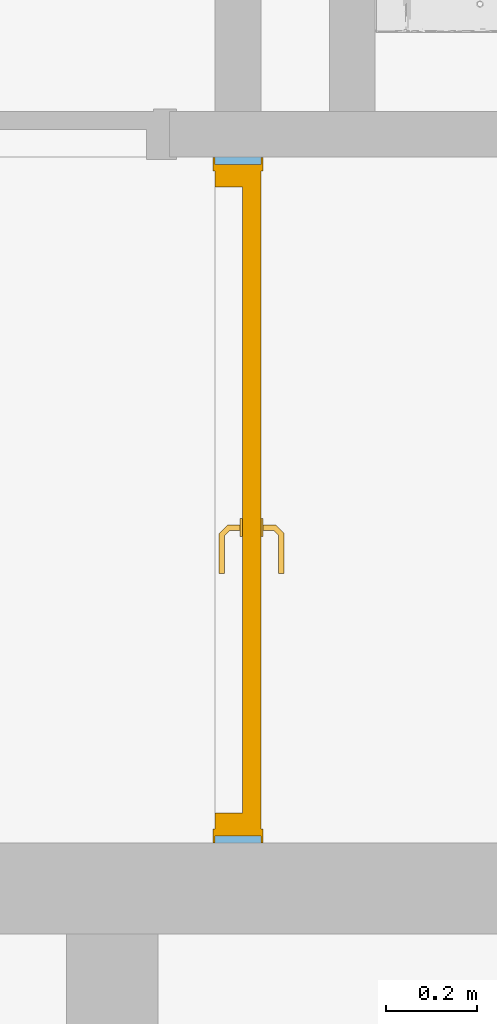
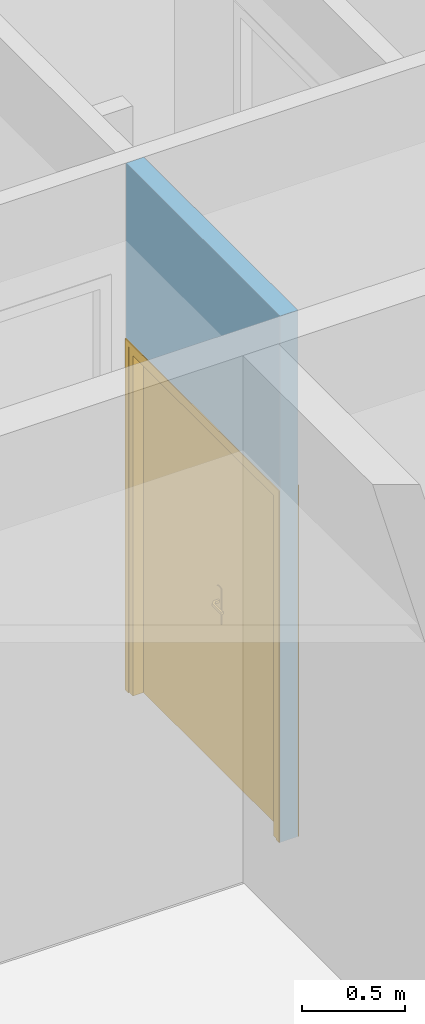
# One storey, part 202 of 240: 1 door, 1 opening, plus 1 element that does not belong to this part.
"""IFC2X3 building model written with IfcOpenShell, lengths in centimetres."""

from ifc_helpers import new_model, entity, si_unit, converted_unit, derived_unit, direction, frame, frame_2d, origin, place, context, subcontext, project, spatial, rectangle, extrude, faceted_brep, source, transform, mapped, material, material_list, layer, layer_set, layer_usage, type_object, type_shapes, element, fill, save


model = new_model("IFC2X3")

# Units and contexts
model_context = context("Model", 3, precision=0.001, world=origin(), true_north=direction((6.12303176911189e-17, 1.0)))
body_context = subcontext(model_context, "Body", "Model", "MODEL_VIEW")
ifc_project = project(units=[si_unit("LENGTHUNIT", "METRE", prefix="CENTI"), si_unit("AREAUNIT", "SQUARE_METRE"), si_unit("VOLUMEUNIT", "CUBIC_METRE"), converted_unit("PLANEANGLEUNIT", "DEGREE", entity("IfcRatioMeasure", 0.0174532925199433), si_unit("PLANEANGLEUNIT", "RADIAN"), dimensions=[0, 0, 0, 0, 0, 0, 0]), si_unit("MASSUNIT", "GRAM", prefix="KILO"), derived_unit("MASSDENSITYUNIT", [(si_unit("MASSUNIT", "GRAM", prefix="KILO"), 1), (si_unit("LENGTHUNIT", "METRE"), -3)]), si_unit("TIMEUNIT", "SECOND"), si_unit("FREQUENCYUNIT", "HERTZ"), si_unit("THERMODYNAMICTEMPERATUREUNIT", "DEGREE_CELSIUS"), derived_unit("THERMALTRANSMITTANCEUNIT", [(si_unit("MASSUNIT", "GRAM", prefix="KILO"), 1), (si_unit("THERMODYNAMICTEMPERATUREUNIT", "KELVIN"), -1), (si_unit("TIMEUNIT", "SECOND"), -3)]), derived_unit("VOLUMETRICFLOWRATEUNIT", [(si_unit("LENGTHUNIT", "METRE"), 3), (si_unit("TIMEUNIT", "SECOND"), -1)]), si_unit("ELECTRICCURRENTUNIT", "AMPERE"), si_unit("ELECTRICVOLTAGEUNIT", "VOLT"), si_unit("POWERUNIT", "WATT"), si_unit("FORCEUNIT", "NEWTON", prefix="KILO"), si_unit("ILLUMINANCEUNIT", "LUX"), si_unit("LUMINOUSFLUXUNIT", "LUMEN"), si_unit("LUMINOUSINTENSITYUNIT", "CANDELA"), derived_unit("USERDEFINED", [(si_unit("MASSUNIT", "GRAM", prefix="KILO"), -1), (si_unit("LENGTHUNIT", "METRE"), -2), (si_unit("TIMEUNIT", "SECOND"), 3), (si_unit("LUMINOUSFLUXUNIT", "LUMEN"), 1)]), derived_unit("LINEARVELOCITYUNIT", [(si_unit("LENGTHUNIT", "METRE"), 1), (si_unit("TIMEUNIT", "SECOND"), -1)]), si_unit("PRESSUREUNIT", "PASCAL"), derived_unit("USERDEFINED", [(si_unit("LENGTHUNIT", "METRE"), -2), (si_unit("MASSUNIT", "GRAM", prefix="KILO"), 1), (si_unit("TIMEUNIT", "SECOND"), -2)])], contexts=[model_context])

# Site, building, storey
site_placement = place(None, frame((-2781.94577612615, 7442.24238424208, 0.0)))
site = spatial("IfcSite", under=ifc_project, at=site_placement, Name="Default", CompositionType="ELEMENT")
building_placement = place(site_placement, origin())
building = spatial("IfcBuilding", under=site, at=building_placement, CompositionType="ELEMENT")
storey_placement = place(building_placement, origin())
storey = spatial("IfcBuildingStorey", under=building, at=storey_placement, Name="N00 - COO", CompositionType="ELEMENT", Elevation=0.0)

# Wall, opening, door
ifc_material_1 = material(Name="01 - Enduit/Plâtre")
ifc_layer_1 = layer(ifc_material_1, 1.3)
ifc_material_2 = material(Name="00 - Isolant")
ifc_layer_2 = layer(ifc_material_2, 7.4)
ifc_layer_3 = layer(ifc_material_1, 1.3)
ifc_layer_set = layer_set([ifc_layer_1, ifc_layer_2, ifc_layer_3], Name="Mur de base:06 - cloisons - Ba13 10cm")
ifc_layer_usage = layer_usage(ifc_layer_set, "AXIS2", "NEGATIVE", 5.0)
wall_type = type_object("IfcWallType", Name="Mur de base:06 - cloisons - Ba13 10cm", PredefinedType="STANDARD", material=ifc_layer_set)
wall_placement = place(building_placement, frame((-9659.49987766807, -1760.0, 0.0), z_axis=(0.0, 0.0, 1.0), x_axis=(0.0, -1.0, 0.0)))
wall = element("IfcWallStandardCase", 1, at=wall_placement, inside=storey, type_object=wall_type, material=ifc_layer_usage, Name="Mur de base:06 - cloisons - Ba13 10cm", ObjectType="Mur de base:06 - cloisons - Ba13 10cm", context=body_context, shape_type="SweptSolid", body=[
    extrude(rectangle(XDim=150.079033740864, YDim=10.0000000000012, at=frame_2d((75.0395168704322, 0.0), x_axis=(-1.0, 0.0))), origin(), (0.0, 0.0, 1.0), 313.0),
])
opening_placement = place(wall_placement, frame((1.57903364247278, -5.0, 0.0)))
opening = element("IfcOpeningElement", 2, at=opening_placement, cuts=wall, Name="Int. Double:PP (1.40m x 2.04m):1", ObjectType="Opening", context=body_context, shape_type="SweptSolid", body=[
    extrude(rectangle(XDim=207.500000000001, YDim=147.0, at=frame_2d((103.750000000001, 73.5000000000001), x_axis=(1.0, 0.0))), frame((0.0, 0.0, 0.0), z_axis=(0.0, 1.0, 0.0), x_axis=(0.0, 0.0, 1.0)), (0.0, 0.0, 1.0), 10.0),
])
ifc_material_3 = material(Name="Bois - Panneau de porte")
ifc_material_4 = material(Name="Finition Peinture - Blanc satiné")
ifc_material_5 = material(Name="Bois - Cadre de porte")
ifc_material_list_1 = material_list([ifc_material_3, ifc_material_4, ifc_material_5])
ifc_material_list_2 = material_list([ifc_material_3, ifc_material_4, ifc_material_5])
door_style = type_object("IfcDoorStyle", Name="PP (1.40m x 2.04m)", ConstructionType="NOTDEFINED", OperationType="DOUBLE_DOOR_SINGLE_SWING", ParameterTakesPrecedence=False, Sizeable=False, material=ifc_material_list_2)
shared_shape = source(origin(), body_context, "Body", "Brep", [
    faceted_brep([(80.5000000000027, 4.0, 204.0), (150.500000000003, 4.0, 204.0), (150.500000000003, 4.0, 0.0), (80.5000000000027, 4.0, 0.0), (80.5000000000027, 0.0, 204.0), (80.5000000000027, 0.0, 0.0), (150.500000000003, 0.0, 0.0), (150.500000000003, 0.0, 204.0)], [[[0, 1, 2, 3]], [[4, 5, 6, 7]], [[1, 0, 4, 7]], [[2, 1, 7, 6]], [[3, 2, 6, 5]], [[0, 3, 5, 4]]]),
    faceted_brep([(76.5000000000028, -0.50000000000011, 87.0), (76.5000000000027, -0.50000000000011, 108.0), (75.5352761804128, -0.500000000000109, 108.399601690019), (74.5000000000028, -0.500000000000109, 108.535898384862), (73.4647238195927, -0.500000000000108, 108.399601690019), (72.5000000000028, -0.500000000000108, 108.0), (72.5000000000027, -0.500000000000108, 87.0), (73.4647238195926, -0.500000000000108, 86.6003983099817), (74.5000000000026, -0.500000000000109, 86.464101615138), (75.5352761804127, -0.500000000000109, 86.6003983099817), (76.5000000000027, 0.0, 108.0), (76.5000000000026, 0.0, 87.0), (75.5352761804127, 0.0, 86.6003983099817), (74.5000000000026, 0.0, 86.464101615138), (73.4647238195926, 0.0, 86.6003983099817), (72.5000000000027, 0.0, 87.0), (72.5000000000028, 0.0, 108.0), (73.4647238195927, 0.0, 108.399601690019), (74.5000000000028, 0.0, 108.535898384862), (75.5352761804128, 0.0, 108.399601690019)], [[[0, 1, 2, 3, 4, 5, 6, 7, 8, 9]], [[10, 11, 12, 13, 14, 15, 16, 17, 18, 19]], [[9, 12, 11, 0]], [[8, 13, 12, 9]], [[7, 14, 13, 8]], [[7, 6, 15, 14]], [[15, 6, 5, 16]], [[4, 17, 16, 5]], [[3, 18, 17, 4]], [[2, 19, 18, 3]], [[2, 1, 10, 19]], [[11, 10, 1, 0]]]),
    faceted_brep([(76.5000000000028, 4.0, 87.0), (76.5000000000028, 4.0, 108.0), (75.5352761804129, 4.0, 108.399601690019), (74.5000000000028, 4.0, 108.535898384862), (73.4647238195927, 4.0, 108.399601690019), (72.5000000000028, 4.0, 108.0), (72.5000000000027, 4.0, 87.0), (73.4647238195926, 4.0, 86.6003983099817), (74.5000000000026, 4.0, 86.464101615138), (75.5352761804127, 4.0, 86.6003983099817), (74.5000000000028, 4.49999999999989, 108.535898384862), (75.5352761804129, 4.49999999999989, 108.399601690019), (76.5000000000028, 4.49999999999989, 108.0), (76.5000000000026, 4.49999999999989, 87.0), (75.5352761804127, 4.49999999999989, 86.6003983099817), (74.5000000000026, 4.49999999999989, 86.464101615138), (73.4647238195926, 4.49999999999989, 86.6003983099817), (72.5000000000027, 4.49999999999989, 87.0), (72.5000000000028, 4.49999999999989, 108.0), (73.4647238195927, 4.49999999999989, 108.399601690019)], [[[0, 1, 2, 3, 4, 5, 6, 7, 8, 9]], [[10, 11, 12, 13, 14, 15, 16, 17, 18, 19]], [[4, 19, 18, 5]], [[3, 10, 19, 4]], [[2, 11, 10, 3]], [[2, 1, 12, 11]], [[13, 12, 1, 0]], [[9, 14, 13, 0]], [[8, 15, 14, 9]], [[7, 16, 15, 8]], [[7, 6, 17, 16]], [[17, 6, 5, 18]]]),
    faceted_brep([(74.297470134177, -0.500000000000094, 100.778044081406), (74.7025298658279, -0.500000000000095, 100.778044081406), (75.1000000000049, -0.500000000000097, 100.699999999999), (75.1000000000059, -0.500000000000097, 99.2999999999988), (74.7025298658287, -0.500000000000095, 99.221955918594), (74.2974701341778, -0.500000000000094, 99.2219559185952), (73.9, -0.500000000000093, 99.3000000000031), (73.9000000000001, -0.500000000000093, 100.7), (74.7025298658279, -3.10045754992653, 100.778044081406), (75.1000000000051, -3.26509507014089, 100.7), (74.297470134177, -2.93267631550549, 100.778044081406), (72.9298602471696, -4.30028620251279, 100.778044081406), (73.0976414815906, -4.70534593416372, 100.778044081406), (73.9000000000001, -2.76803879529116, 100.7), (73.9, -2.76803879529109, 99.3000000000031), (74.2974701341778, -2.93267631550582, 99.2219559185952), (74.7025298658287, -3.10045754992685, 99.221955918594), (73.0976414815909, -4.7053459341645, 99.221955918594), (72.9298602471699, -4.30028620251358, 99.2219559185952), (75.1000000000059, -3.26509507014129, 99.2999999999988), (73.2622790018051, -5.10281606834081, 100.7), (72.7652227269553, -3.90281606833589, 100.7), (72.7652227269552, -3.90281606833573, 99.3000000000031), (73.2622790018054, -5.10281606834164, 99.2999999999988), (64.4981359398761, -5.10281606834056, 100.7), (64.4981359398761, -4.70534593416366, 100.778044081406), (64.4981359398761, -4.30028620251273, 100.778044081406), (64.4981359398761, -3.9028160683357, 100.699999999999), (64.4981359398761, -3.90281606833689, 99.3000000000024), (64.4981359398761, -4.30028620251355, 99.2219559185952), (64.4981359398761, -4.70534593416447, 99.221955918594), (64.4981359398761, -5.10281606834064, 99.2999999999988), (68.7139980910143, -4.50281606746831, 100.78786867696), (69.2692302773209, -5.10281606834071, 100.7), (68.6316793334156, -3.9028160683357, 100.7), (68.6316793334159, -3.9028160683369, 99.3000000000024), (68.7139981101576, -4.50281607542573, 99.2121313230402), (69.269231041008, -5.10281606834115, 99.2999999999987)], [[[0, 1, 2, 3, 4, 5, 6, 7]], [[2, 1, 8, 9]], [[1, 0, 10, 11, 12, 8]], [[0, 7, 13, 10]], [[14, 13, 7, 6]], [[5, 15, 14, 6]], [[5, 4, 16, 17, 18, 15]], [[3, 19, 16, 4]], [[9, 19, 3, 2]], [[9, 8, 12, 20]], [[10, 13, 21, 11]], [[22, 21, 13, 14]], [[14, 15, 18, 22]], [[16, 19, 23, 17]], [[20, 23, 19, 9]], [[24, 25, 26, 27, 28, 29, 30, 31]], [[32, 25, 33]], [[33, 25, 24]], [[33, 20, 12]], [[11, 34, 32]], [[34, 11, 21]], [[27, 26, 34]], [[32, 26, 25]], [[32, 34, 26]], [[32, 33, 12]], [[11, 32, 12]], [[21, 22, 35, 28, 27, 34]], [[36, 29, 35]], [[30, 36, 37]], [[18, 35, 22]], [[29, 28, 35]], [[30, 37, 31]], [[37, 17, 23]], [[36, 17, 37]], [[36, 18, 17]], [[36, 35, 18]], [[29, 36, 30]], [[23, 20, 33, 24, 31, 37]]]),
    faceted_brep([(74.2974701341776, 4.4999999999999, 99.2219559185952), (74.7025298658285, 4.4999999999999, 99.221955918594), (75.1000000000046, 4.4999999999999, 99.2999999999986), (75.1000000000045, 4.4999999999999, 100.7), (74.7025298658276, 4.4999999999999, 100.778044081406), (74.2974701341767, 4.4999999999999, 100.778044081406), (73.8999999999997, 4.49999999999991, 100.7), (73.9000000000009, 4.49999999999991, 99.3000000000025), (73.8999999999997, 6.7485204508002, 100.7), (73.8999999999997, 6.7485204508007, 99.3000000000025), (74.2974701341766, 6.91315797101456, 100.778044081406), (74.7025298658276, 7.08093920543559, 100.778044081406), (73.0838906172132, 8.69957845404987, 100.778044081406), (72.9161093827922, 8.29451872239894, 100.778044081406), (75.1000000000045, 7.24557672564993, 100.7), (75.1000000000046, 7.24557672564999, 99.2999999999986), (74.7025298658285, 7.08093920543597, 99.221955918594), (74.2974701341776, 6.91315797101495, 99.2219559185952), (72.9161093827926, 8.29451872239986, 99.2219559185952), (73.0838906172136, 8.69957845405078, 99.221955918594), (72.7514718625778, 7.89704858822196, 100.7), (72.7514718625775, 7.89704858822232, 99.3000000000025), (73.2485281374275, 9.09704858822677, 100.7), (73.2485281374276, 9.0970485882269, 99.2999999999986), (64.4954216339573, 8.294518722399, 100.778044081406), (64.4954216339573, 8.69957845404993, 100.778044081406), (64.4954216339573, 9.09704858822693, 100.7), (64.4954216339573, 9.09704858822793, 99.2999999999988), (64.4954216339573, 8.6995784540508, 99.221955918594), (64.4954216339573, 8.29451872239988, 99.2219559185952), (64.4954216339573, 7.89704858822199, 99.3000000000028), (64.4954216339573, 7.8970485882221, 100.7), (68.6234467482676, 7.89704858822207, 100.7), (68.6234479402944, 7.89704858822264, 99.3000000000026), (68.7057655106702, 8.49704858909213, 100.78786867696), (69.2554794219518, 9.09704858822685, 100.7), (69.2554795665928, 9.09704858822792, 99.2999999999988), (68.7057654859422, 8.49704858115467, 99.2121313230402)], [[[0, 1, 2, 3, 4, 5, 6, 7]], [[8, 9, 7, 6]], [[5, 10, 8, 6]], [[5, 4, 11, 12, 13, 10]], [[3, 14, 11, 4]], [[14, 3, 2, 15]], [[2, 1, 16, 15]], [[1, 0, 17, 18, 19, 16]], [[0, 7, 9, 17]], [[20, 21, 9, 8]], [[8, 10, 13, 20]], [[14, 22, 12, 11]], [[23, 22, 14, 15]], [[15, 16, 19, 23]], [[17, 9, 21, 18]], [[24, 25, 26, 27, 28, 29, 30, 31]], [[21, 20, 32, 31, 30, 33]], [[34, 24, 32]], [[25, 34, 35]], [[13, 32, 20]], [[24, 31, 32]], [[25, 35, 26]], [[35, 12, 22]], [[34, 12, 35]], [[34, 13, 12]], [[34, 32, 13]], [[24, 34, 25]], [[22, 23, 36, 27, 26, 35]], [[37, 28, 36]], [[36, 28, 27]], [[36, 23, 19]], [[18, 33, 37]], [[33, 18, 21]], [[30, 29, 33]], [[37, 29, 28]], [[37, 33, 29]], [[37, 36, 19]], [[18, 37, 19]]]),
    faceted_brep([(80.5000000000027, 4.0, 204.0), (80.5000000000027, 4.0, 0.0), (10.5000000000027, 4.0, 0.0), (10.5000000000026, 4.0, 204.0), (80.5000000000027, 0.0, 204.0), (10.5000000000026, 0.0, 204.0), (10.5000000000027, 0.0, 0.0), (80.5000000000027, 0.0, 0.0)], [[[0, 1, 2, 3]], [[4, 5, 6, 7]], [[3, 5, 4, 0]], [[2, 6, 5, 3]], [[1, 7, 6, 2]], [[0, 4, 7, 1]]]),
    faceted_brep([(154.0, 0.0, 0.0), (150.500000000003, 0.0, 0.0), (150.500000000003, 4.0, 0.0), (149.0, 4.0, 0.0), (149.0, 10.0, 0.0), (154.0, 10.0, 0.0), (154.0, 10.0, 207.500000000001), (154.0, 0.0, 207.500000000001), (149.0, 10.0, 202.5), (12.0, 10.0, 202.5), (12.0, 10.0, 0.0), (7.0, 10.0, 0.0), (7.0, 10.0, 207.500000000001), (149.0, 4.0, 202.5), (150.500000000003, 4.0, 204.0), (10.5000000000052, 4.0, 204.0), (10.5000000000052, 4.0, 0.0), (12.0, 4.0, 0.0), (12.0, 4.0, 202.5), (150.500000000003, 0.0, 204.0), (7.0, 0.0, 207.500000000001), (7.0, 0.0, 0.0), (10.5000000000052, 0.0, 0.0), (10.5000000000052, 0.0, 204.0)], [[[0, 1, 2, 3, 4, 5]], [[5, 6, 7, 0]], [[4, 8, 9, 10, 11, 12, 6, 5]], [[3, 13, 8, 4]], [[2, 14, 15, 16, 17, 18, 13, 3]], [[1, 19, 14, 2]], [[0, 7, 20, 21, 22, 23, 19, 1]], [[12, 11, 21, 20]], [[21, 11, 10, 17, 16, 22]], [[18, 17, 10, 9]], [[23, 22, 16, 15]], [[6, 12, 20, 7]], [[13, 18, 9, 8]], [[19, 23, 15, 14]]]),
    faceted_brep([(152.500000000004, 10.0, 0.0), (152.500000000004, 10.5000000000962, 0.0), (155.500000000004, 10.5000000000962, 0.0), (155.500000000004, 10.0, 0.0), (155.500000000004, 10.0, 209.0), (5.50000000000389, 10.0, 209.0), (5.50000000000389, 10.0, 0.0), (8.50000000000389, 10.0, 0.0), (8.50000000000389, 10.0, 206.0), (152.500000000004, 10.0, 206.0), (155.500000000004, 10.5000000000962, 209.0), (152.500000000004, 10.5000000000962, 206.0), (8.50000000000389, 10.5000000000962, 206.0), (8.50000000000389, 10.5000000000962, 0.0), (5.50000000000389, 10.5000000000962, 0.0), (5.50000000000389, 10.5000000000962, 209.0)], [[[0, 1, 2, 3]], [[3, 4, 5, 6, 7, 8, 9, 0]], [[2, 10, 4, 3]], [[1, 11, 12, 13, 14, 15, 10, 2]], [[0, 9, 11, 1]], [[8, 7, 13, 12]], [[7, 6, 14, 13]], [[15, 14, 6, 5]], [[10, 15, 5, 4]], [[9, 8, 12, 11]]]),
    faceted_brep([(155.500000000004, -0.500000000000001, 0.0), (155.500000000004, -0.500000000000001, 209.0), (5.50000000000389, -0.500000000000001, 209.0), (5.50000000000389, -0.500000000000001, 0.0), (8.50000000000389, -0.500000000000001, 0.0), (8.50000000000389, -0.500000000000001, 206.0), (152.500000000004, -0.500000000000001, 206.0), (152.500000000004, -0.500000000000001, 0.0), (155.500000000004, 0.0, 0.0), (155.500000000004, 0.0, 209.0), (152.500000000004, 0.0, 0.0), (152.500000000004, 0.0, 206.0), (8.50000000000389, 0.0, 206.0), (8.50000000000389, 0.0, 0.0), (5.50000000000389, 0.0, 0.0), (5.50000000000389, 0.0, 209.0)], [[[0, 1, 2, 3, 4, 5, 6, 7]], [[8, 9, 1, 0]], [[10, 11, 12, 13, 14, 15, 9, 8]], [[7, 6, 11, 10]], [[5, 4, 13, 12]], [[15, 14, 3, 2]], [[9, 15, 2, 1]], [[6, 5, 12, 11]], [[4, 3, 14, 13]], [[7, 10, 8, 0]]]),
])
type_shapes(door_style, [shared_shape])
door_placement = place(opening_placement, frame((154.0, 10.0, 0.0), z_axis=(0.0, 0.0, 1.0), x_axis=(-1.0, 0.0, 0.0)))
door = element("IfcDoor", 3, at=door_placement, inside=storey, type_object=door_style, material=ifc_material_list_1, Name="Int. Double:PP (1.40m x 2.04m)", ObjectType="Int. Double:PP (1.40m x 2.04m)", OverallHeight=207.500000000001, OverallWidth=147.0, context=body_context, shape_type="MappedRepresentation", body=[
    mapped(shared_shape, transform((0.0, 0.0, 0.0), scale=1.0)),
])
fill(opening, door)

save(model, "model.ifc")
